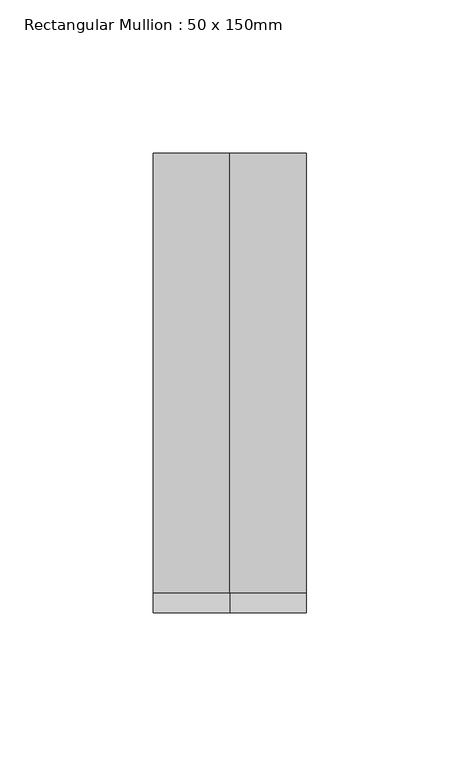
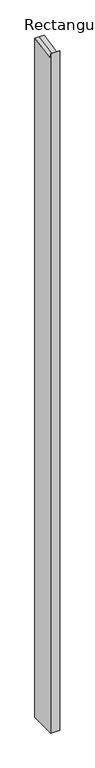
"""IFC4 building model written with IfcOpenShell, lengths in millimetres: member geometry, Rectangular Mullion : 50 x 150mm."""

from ifc_helpers import new_model, si_unit, origin, place, context, project, spatial, faceted_brep, source, transform, mapped, element, save


def rectangular_mullion_50_x_150mm_662445cf(model_context):
    return source(origin(), model_context, "Body", "Brep", [
        faceted_brep([(25.0, 75.0, -3925.0), (25.0, -75.0, -3925.0), (-25.0, -75.0, -3925.0), (-25.0, 75.0, -3925.0), (-25.0, 75.0, 14.7937927), (0.0, 75.0, 14.7937927), (25.0, 75.0, 14.7937927), (-25.0, -75.0, 17.4234614), (-25.0, -68.4846923, -14.4948974), (25.0, -75.0, 17.4234614), (0.0, -75.0, 17.4234614), (25.0, -68.4846923, -14.4948974), (0.0, -68.4846923, -14.4948974)], [[[0, 1, 2, 3]], [[4, 5, 6, 0, 3]], [[7, 8, 4, 3, 2]], [[9, 10, 7, 2, 1]], [[6, 11, 9, 1, 0]], [[6, 5, 12, 11]], [[5, 4, 8, 12]], [[8, 7, 10, 12]], [[10, 9, 11, 12]]]),
    ])


if __name__ == "__main__":
    model = new_model("IFC4")
    model_context = context("Model", 3, world=origin())
    ifc_project = project(units=[si_unit("LENGTHUNIT", "METRE", prefix="MILLI")], contexts=[model_context])
    site = spatial("IfcSite", under=ifc_project)
    building = spatial("IfcBuilding", under=site)
    placement = place(None, origin())
    rectangular_mullion_50_x_150mm_shape = rectangular_mullion_50_x_150mm_662445cf(model_context)
    element("IfcMember", 1, ObjectType="Rectangular Mullion : 50 x 150mm", at=placement, inside=building, context=model_context, shape_type="MappedRepresentation", body=[
        mapped(rectangular_mullion_50_x_150mm_shape, transform((0.0, 0.0, 0.0), x_axis=(1.0, 0.0, 0.0), y_axis=(0.0, 1.0, 0.0), z_axis=(0.0, 0.0, 1.0))),
    ])
    save(model, "model.ifc")
